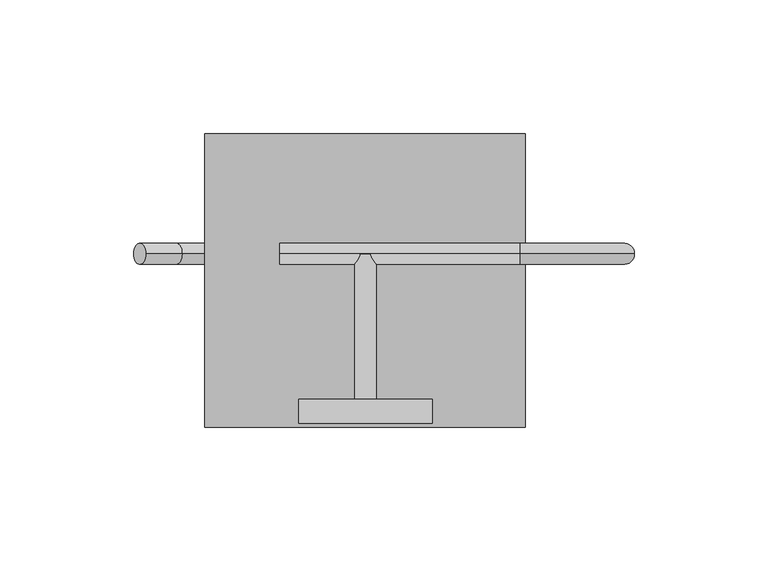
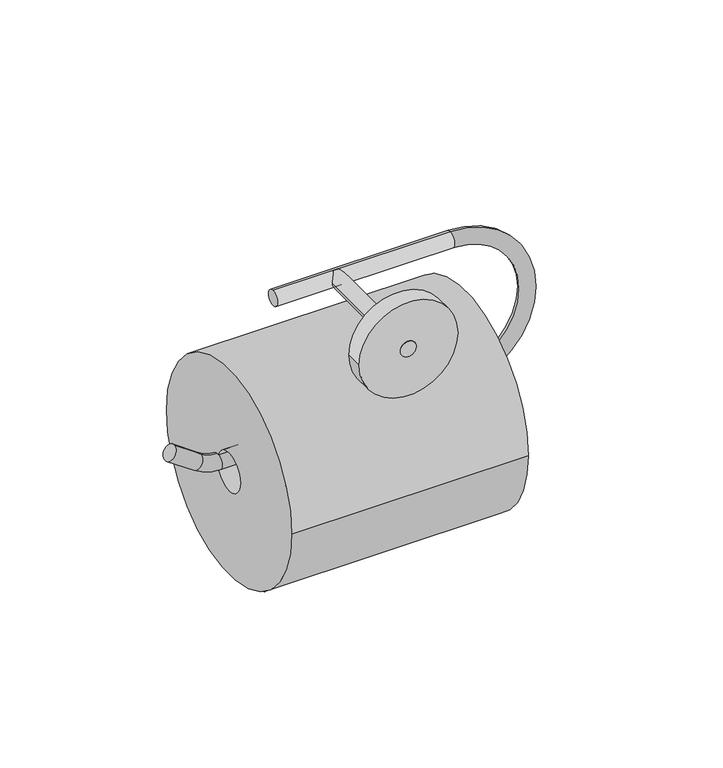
"""IFC4 building model written with IfcOpenShell, lengths in millimetres: flow terminal geometry, Portarrollo Dica 1017 : Portarrollos Dica 1017."""

from ifc_helpers import new_model, si_unit, point, frame, frame_2d, origin, place, context, project, spatial, circle_curve, ellipse_curve, trimmed, segment, composite_curve, outline, extrude, source, transform, mapped, element, save
from ifc_brep_helpers import plane_surface, cylinder_surface, revolved_surface, advanced_brep


def flow_terminal_628d0cec(model_context):
    return source(origin(), model_context, "Body", "SolidModel", [
        extrude(outline(composite_curve([segment(trimmed(circle_curve(frame_2d((138.5, -77.2787162)), 55.0), [point((193.5, -77.2787162))], [point((83.5, -77.2787162))], False, "CARTESIAN"), True, "CONTINUOUS"), segment(trimmed(circle_curve(frame_2d((138.5, -77.2787162)), 55.0), [point((83.5, -77.2787162))], [point((193.5, -77.2787162))], False, "CARTESIAN"), True, "CONTINUOUS")], self_intersect=False), holes=[composite_curve([segment(trimmed(circle_curve(frame_2d((138.5, -77.2787162)), 10.0), [point((148.5, -77.2787162))], [point((128.5, -77.2787162))], True, "CARTESIAN"), True, "CONTINUOUS"), segment(trimmed(circle_curve(frame_2d((138.5, -77.2787162)), 10.0), [point((128.5, -77.2787162))], [point((148.5, -77.2787162))], True, "CARTESIAN"), True, "CONTINUOUS")], self_intersect=False)]), frame((64.9375, 0.0, 0.0), z_axis=(1.0, 0.0, 0.0), x_axis=(0.0, 1.0, 0.0)), (0.0, 0.0, 1.0), 120.0),
        extrude(outline(composite_curve([segment(trimmed(circle_curve(frame_2d((0.0, 125.0)), 4.0), [point((0.0, 121.0))], [point((0.0, 129.0))], False, "CARTESIAN"), True, "CONTINUOUS"), segment(trimmed(circle_curve(frame_2d((0.0, 125.0)), 4.0), [point((0.0, 129.0))], [point((0.0, 121.0))], False, "CARTESIAN"), True, "CONTINUOUS")], self_intersect=False)), frame((0.0, 85.0, 0.0), z_axis=(0.0, 1.0, 0.0), x_axis=(0.0, 0.0, 1.0)), (0.0, 0.0, 1.0), 63.3830496),
        extrude(outline(composite_curve([segment(trimmed(circle_curve(frame_2d((0.0, 125.0)), 25.0), [point((0.0, 100.0))], [point((0.0, 150.0))], False, "CARTESIAN"), True, "CONTINUOUS"), segment(trimmed(circle_curve(frame_2d((0.0, 125.0)), 25.0), [point((0.0, 150.0))], [point((0.0, 100.0))], False, "CARTESIAN"), True, "CONTINUOUS")], self_intersect=False)), frame((0.0, 85.0, 0.0), z_axis=(0.0, 1.0, 0.0), x_axis=(0.0, 0.0, 1.0)), (0.0, 0.0, 1.0), 8.9918697),
        advanced_brep(
        [(38.2124764, 148.5, -67.8712806), (42.8010879, 148.5, -61.3180642), (51.7841808, 148.5, -77.3742904), (56.3727923, 148.5, -70.821074), (64.8692601, 148.5, -73.5), (64.8692601, 148.5, -81.5), (182.9954104, 148.5, -81.5), (182.9954104, 148.5, -73.5), (182.9954104, 148.5, -4.0), (182.9954104, 148.5, 4.0), (92.9954104, 148.5, 4.0), (92.9954104, 148.5, -4.0)],
        [
            (0, 1, circle_curve(frame((40.5067821, 148.5, -64.5946724), z_axis=(-0.8191520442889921, 0.0, 0.5735764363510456), x_axis=(0.5735764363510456, 0.0, 0.8191520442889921)), 4.0)),
            (1, 0, circle_curve(frame((40.5067821, 148.5, -64.5946724), z_axis=(-0.8191520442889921, 0.0, 0.5735764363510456), x_axis=(0.5735764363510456, 0.0, 0.8191520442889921)), 4.0)),
            (0, 2),
            (2, 3, circle_curve(frame((54.0784866, 148.5, -74.0976822), z_axis=(-0.8191520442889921, 0.0, 0.5735764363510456), x_axis=(0.5735764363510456, 0.0, 0.8191520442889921)), 4.0)),
            (3, 1),
            (3, 2, circle_curve(frame((54.0784866, 148.5, -74.0976822), z_axis=(-0.8191520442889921, 0.0, 0.5735764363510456), x_axis=(0.5735764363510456, 0.0, 0.8191520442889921)), 4.0)),
            (4, 3, circle_curve(frame((64.8692601, 148.5, -58.6868605), z_axis=(0.0, 1.0, 0.0), x_axis=(-0.5735764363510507, 0.0, -0.8191520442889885)), 14.8131395)),
            (2, 5, circle_curve(frame((64.8692601, 148.5, -58.6868605), z_axis=(0.0, -1.0, 0.0), x_axis=(-0.5735764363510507, 0.0, -0.8191520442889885)), 22.8131395)),
            (5, 4, circle_curve(frame((64.8692601, 148.5, -77.5), z_axis=(-1.0, 0.0, 0.0), x_axis=(0.0, 0.0, 1.0)), 4.0)),
            (4, 5, circle_curve(frame((64.8692601, 148.5, -77.5), z_axis=(-0.9999999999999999, 0.0, 0.0), x_axis=(0.0, 0.0, 0.9999999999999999)), 4.0)),
            (5, 6),
            (6, 7, circle_curve(frame((182.9954104, 148.5, -77.5), z_axis=(-1.0, 0.0, 0.0), x_axis=(0.0, 0.0, 1.0)), 4.0)),
            (7, 4),
            (7, 6, circle_curve(frame((182.9954104, 148.5, -77.5), z_axis=(-1.0, 0.0, 0.0), x_axis=(0.0, 0.0, 1.0)), 4.0)),
            (8, 7, circle_curve(frame((182.9954104, 148.5, -38.75), z_axis=(0.0, 1.0, 0.0), x_axis=(0.0, 0.0, -1.0)), 34.75)),
            (6, 9, circle_curve(frame((182.9954104, 148.5, -38.75), z_axis=(0.0, -1.0, 0.0), x_axis=(0.0, 0.0, -1.0)), 42.75)),
            (9, 8, circle_curve(frame((182.9954104, 148.5, 0.0), z_axis=(1.0, 0.0, 0.0), x_axis=(0.0, 0.0, -1.0)), 4.0)),
            (8, 9, circle_curve(frame((182.9954104, 148.5, 0.0), z_axis=(1.0, 0.0, 0.0), x_axis=(0.0, 0.0, -1.0)), 4.0)),
            (10, 11, circle_curve(frame((92.9954104, 148.5, 0.0), z_axis=(-1.0, 0.0, 0.0), x_axis=(0.0, 0.0, -1.0)), 4.0)),
            (11, 10, circle_curve(frame((92.9954104, 148.5, 0.0), z_axis=(-1.0, 0.0, 0.0), x_axis=(0.0, 0.0, -1.0)), 4.0)),
            (9, 10),
            (11, 8),
        ],
        [
            plane_surface(frame((40.5067821, 85.0, -64.5946724), z_axis=(-0.8191520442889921, 0.0, 0.5735764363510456), x_axis=(0.0, -1.0, 0.0))),
            cylinder_surface(frame((40.5067821, 148.5, -64.5946724), z_axis=(-0.8191520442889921, 0.0, 0.5735764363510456), x_axis=(0.5735764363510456, 0.0, 0.8191520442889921)), 4.0),
            revolved_surface(trimmed(ellipse_curve(frame((54.0784866, 148.5, -74.0976822), z_axis=(-0.8191520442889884, 0.0, 0.5735764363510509), x_axis=(0.5735764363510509, 0.0, 0.8191520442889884)), 4.0, 4.0), [point((51.7841808, 148.5, -77.3742904))], [point((56.3727923, 148.5, -70.821074))], True, "CARTESIAN"), (64.8692601, 85.0, -58.6868605), (0.0, -1.0, 0.0)),
            revolved_surface(trimmed(ellipse_curve(frame((54.0784866, 148.5, -74.0976822), z_axis=(-0.8191520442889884, 0.0, 0.5735764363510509), x_axis=(0.5735764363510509, 0.0, 0.8191520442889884)), 4.0, 4.0), [point((56.3727923, 148.5, -70.821074))], [point((51.7841808, 148.5, -77.3742904))], True, "CARTESIAN"), (64.8692601, 85.0, -58.6868605), (0.0, -1.0, 0.0)),
            cylinder_surface(frame((64.8692601, 148.5, -77.5), z_axis=(-1.0, 0.0, 0.0), x_axis=(0.0, 0.0, 1.0)), 4.0),
            revolved_surface(trimmed(ellipse_curve(frame((182.9954104, 148.5, -77.5), z_axis=(-1.0, 0.0, 0.0), x_axis=(0.0, 0.0, 1.0)), 4.0, 4.0), [point((182.9954104, 148.5, -81.5))], [point((182.9954104, 148.5, -73.5))], True, "CARTESIAN"), (182.9954104, 85.0, -38.75), (0.0, -1.0, 0.0)),
            revolved_surface(trimmed(ellipse_curve(frame((182.9954104, 148.5, -77.5), z_axis=(-1.0, 0.0, 0.0), x_axis=(0.0, 0.0, 1.0)), 4.0, 4.0), [point((182.9954104, 148.5, -73.5))], [point((182.9954104, 148.5, -81.5))], True, "CARTESIAN"), (182.9954104, 85.0, -38.75), (0.0, -1.0, 0.0)),
            plane_surface(frame((92.9954104, 85.0, 0.0), z_axis=(-1.0, 0.0, 0.0), x_axis=(0.0, -1.0, 0.0))),
            cylinder_surface(frame((182.9954104, 148.5, 0.0), z_axis=(1.0, 0.0, 0.0), x_axis=(0.0, 0.0, -1.0)), 4.0),
        ],
        [
            (0, [[1, 2]]),
            (1, [[-1, 3, 4, 5]]),
            (1, [[-2, -5, 6, -3]]),
            (2, [[7, -4, 8, 9]]),
            (3, [[-8, -6, -7, 10]]),
            (4, [[-9, 11, 12, 13]]),
            (4, [[-10, -13, 14, -11]]),
            (5, [[15, -12, 16, 17]]),
            (6, [[-16, -14, -15, 18]]),
            (7, [[19, 20]]),
            (8, [[-17, 21, -20, 22]]),
            (8, [[-18, -22, -19, -21]]),
        ],
    ),
    ])


if __name__ == "__main__":
    model = new_model("IFC4")
    model_context = context("Model", 3, world=origin())
    ifc_project = project(units=[si_unit("LENGTHUNIT", "METRE", prefix="MILLI")], contexts=[model_context])
    site = spatial("IfcSite", under=ifc_project)
    building = spatial("IfcBuilding", under=site)
    placement = place(None, origin())
    flow_terminal_shape = flow_terminal_628d0cec(model_context)
    element("IfcFlowTerminal", 1, ObjectType="Portarrollo Dica 1017 : Portarrollos Dica 1017", at=placement, inside=building, context=model_context, shape_type="MappedRepresentation", body=[
        mapped(flow_terminal_shape, transform((0.0, 0.0, 0.0), x_axis=(1.0, 0.0, 0.0), y_axis=(0.0, 1.0, 0.0), z_axis=(0.0, 0.0, 1.0))),
    ])
    save(model, "model.ifc")
